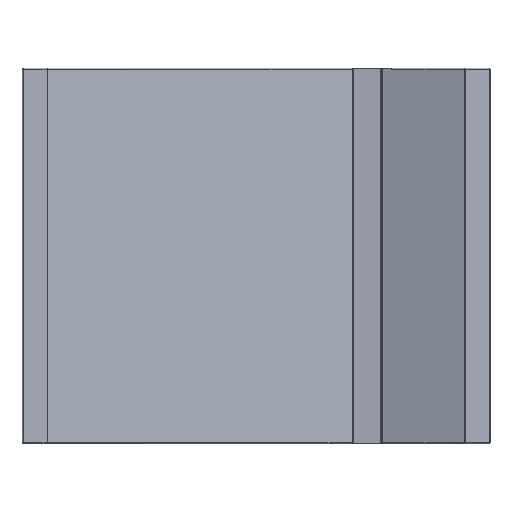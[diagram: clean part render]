
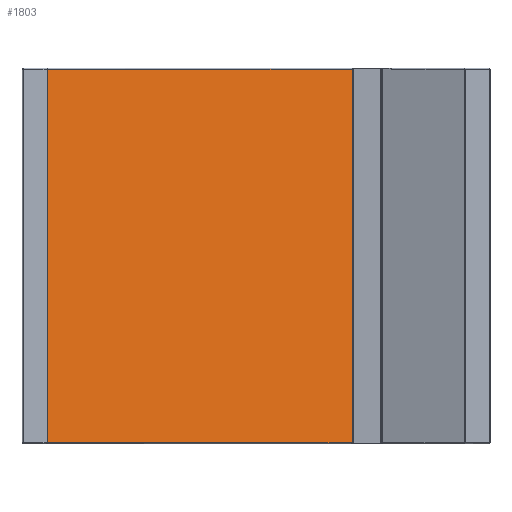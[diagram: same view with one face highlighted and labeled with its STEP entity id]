
A CAD part, top view. The second image highlights one B-rep face of the part: STEP entity #1803.
In plain terms, the highlighted planar face has unit normal (0.319, 0, 0.948).
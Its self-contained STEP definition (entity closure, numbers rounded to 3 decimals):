
#1558=CARTESIAN_POINT('',(-61.065,1520.5,53.906));
#1559=VERTEX_POINT('',#1558);
#1688=CARTESIAN_POINT('',(-61.065,5.246,53.906));
#1689=VERTEX_POINT('',#1688);
#1690=CARTESIAN_POINT('',(-61.065,1520.5,53.906));
#1691=DIRECTION('',(0.0,-1.0,0.0));
#1692=VECTOR('',#1691,1515.254);
#1693=LINE('',#1690,#1692);
#1694=EDGE_CURVE('',#1559,#1689,#1693,.T.);
#1764=CARTESIAN_POINT('',(-679.477,762.5,262.024));
#1765=DIRECTION('',(0.319,0.,0.948));
#1766=DIRECTION('',(0.948,0.,-0.319));
#1767=AXIS2_PLACEMENT_3D('',#1764,#1765,#1766);
#1768=PLANE('',#1767);
#1769=CARTESIAN_POINT('',(-1299.424,1520.5,470.66));
#1770=VERTEX_POINT('',#1769);
#1771=CARTESIAN_POINT('',(-61.065,1520.5,53.906));
#1772=DIRECTION('',(-0.948,0.0,0.319));
#1773=VECTOR('',#1772,1306.605);
#1774=LINE('',#1771,#1773);
#1775=EDGE_CURVE('',#1559,#1770,#1774,.T.);
#1776=ORIENTED_EDGE('',*,*,#1775,.T.);
#1777=CARTESIAN_POINT('',(-1299.424,4.5,470.66));
#1778=VERTEX_POINT('',#1777);
#1779=CARTESIAN_POINT('',(-1299.424,1520.5,470.66));
#1780=DIRECTION('',(0.0,-1.0,0.0));
#1781=VECTOR('',#1780,1516.);
#1782=LINE('',#1779,#1781);
#1783=EDGE_CURVE('',#1770,#1778,#1782,.T.);
#1784=ORIENTED_EDGE('',*,*,#1783,.T.);
#1785=CARTESIAN_POINT('',(-61.905,4.5,54.188));
#1786=VERTEX_POINT('',#1785);
#1787=CARTESIAN_POINT('',(-1299.424,4.5,470.66));
#1788=DIRECTION('',(0.948,0.0,-0.319));
#1789=VECTOR('',#1788,1305.719);
#1790=LINE('',#1787,#1789);
#1791=EDGE_CURVE('',#1778,#1786,#1790,.T.);
#1792=ORIENTED_EDGE('',*,*,#1791,.T.);
#1793=CARTESIAN_POINT('',(-59.069,1.845,53.234));
#1794=DIRECTION('',(-0.319,0.0,-0.948));
#1795=DIRECTION('',(0.0,-1.0,0.0));
#1796=AXIS2_PLACEMENT_3D('',#1793,#1794,#1795);
#1797=CIRCLE('',#1796,4.0);
#1798=EDGE_CURVE('',#1786,#1689,#1797,.T.);
#1799=ORIENTED_EDGE('',*,*,#1798,.T.);
#1800=ORIENTED_EDGE('',*,*,#1694,.F.);
#1801=EDGE_LOOP('',(#1776,#1784,#1792,#1799,#1800));
#1802=FACE_OUTER_BOUND('',#1801,.T.);
#1803=ADVANCED_FACE('',(#1802),#1768,.T.);
